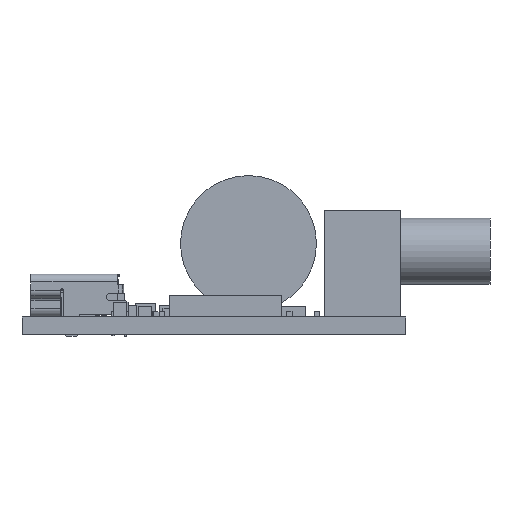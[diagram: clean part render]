
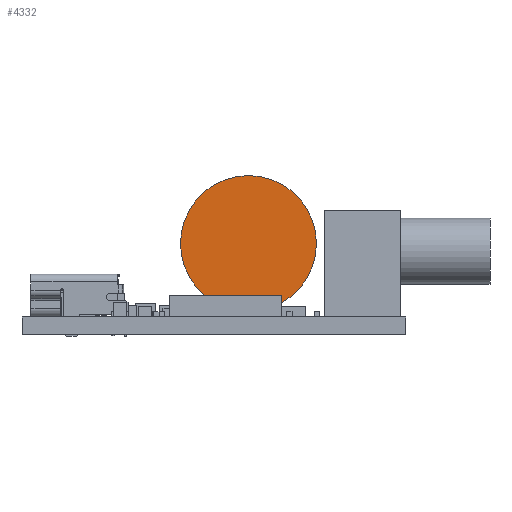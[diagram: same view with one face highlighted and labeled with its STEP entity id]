
A CAD part, front view. The second image highlights one B-rep face of the part: STEP entity #4332.
In plain terms, the highlighted planar face has unit normal (0, -1, 0) as drawn and (0, 0, -1) by its records, which use the part's own axes.
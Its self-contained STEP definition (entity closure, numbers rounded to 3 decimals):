
#4243 = VERTEX_POINT('',#4244);
#4244 = CARTESIAN_POINT('',(6.3,0.,0.));
#4253 = CYLINDRICAL_SURFACE('',#4254,6.3);
#4254 = AXIS2_PLACEMENT_3D('',#4255,#4256,#4257);
#4255 = CARTESIAN_POINT('',(0.,0.,0.));
#4256 = DIRECTION('',(0.,0.,-1.));
#4257 = DIRECTION('',(1.,0.,0.));
#4272 = EDGE_CURVE('',#4243,#4243,#4273,.T.);
#4273 = SURFACE_CURVE('',#4274,(#4279,#4285),.PCURVE_S1.);
#4274 = CIRCLE('',#4275,6.3);
#4275 = AXIS2_PLACEMENT_3D('',#4276,#4277,#4278);
#4276 = CARTESIAN_POINT('',(0.,0.,0.));
#4277 = DIRECTION('',(0.,0.,1.));
#4278 = DIRECTION('',(1.,0.,0.));
#4279 = PCURVE('',#4253,#4280);
#4280 = DEFINITIONAL_REPRESENTATION('',(#4281),#4284);
#4281 = B_SPLINE_CURVE_WITH_KNOTS('',1,(#4282,#4283),.UNSPECIFIED.,.F.,
  .F.,(2,2),(0.,6.283),.PIECEWISE_BEZIER_KNOTS.);
#4282 = CARTESIAN_POINT('',(6.283,0.));
#4283 = CARTESIAN_POINT('',(0.,0.));
#4284 = ( GEOMETRIC_REPRESENTATION_CONTEXT(2) 
PARAMETRIC_REPRESENTATION_CONTEXT() REPRESENTATION_CONTEXT('2D SPACE',''
  ) );
#4285 = PCURVE('',#4286,#4291);
#4286 = PLANE('',#4287);
#4287 = AXIS2_PLACEMENT_3D('',#4288,#4289,#4290);
#4288 = CARTESIAN_POINT('',(6.3,0.,0.));
#4289 = DIRECTION('',(0.,0.,-1.));
#4290 = DIRECTION('',(-1.,0.,0.));
#4291 = DEFINITIONAL_REPRESENTATION('',(#4292),#4300);
#4292 = ( BOUNDED_CURVE() B_SPLINE_CURVE(2,(#4293,#4294,#4295,#4296,
#4297,#4298,#4299),.UNSPECIFIED.,.F.,.F.) B_SPLINE_CURVE_WITH_KNOTS((1,2
    ,2,2,2,1),(-2.094,0.,2.094,4.189,
6.283,8.378),.UNSPECIFIED.) CURVE() 
GEOMETRIC_REPRESENTATION_ITEM() RATIONAL_B_SPLINE_CURVE((1.,0.5,1.,0.5,
1.,0.5,1.)) REPRESENTATION_ITEM('') );
#4293 = CARTESIAN_POINT('',(0.,0.));
#4294 = CARTESIAN_POINT('',(0.,10.912));
#4295 = CARTESIAN_POINT('',(9.45,5.456));
#4296 = CARTESIAN_POINT('',(18.9,0.));
#4297 = CARTESIAN_POINT('',(9.45,-5.456));
#4298 = CARTESIAN_POINT('',(0.,-10.912));
#4299 = CARTESIAN_POINT('',(0.,0.));
#4300 = ( GEOMETRIC_REPRESENTATION_CONTEXT(2) 
PARAMETRIC_REPRESENTATION_CONTEXT() REPRESENTATION_CONTEXT('2D SPACE',''
  ) );
#4332 = ADVANCED_FACE('',(#4333),#4286,.T.);
#4333 = FACE_BOUND('',#4334,.F.);
#4334 = EDGE_LOOP('',(#4335));
#4335 = ORIENTED_EDGE('',*,*,#4272,.T.);
